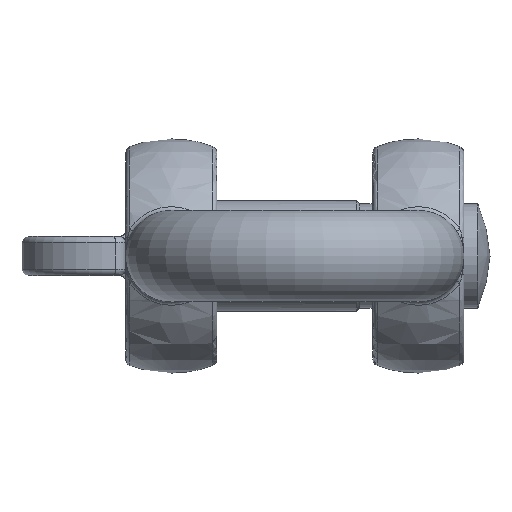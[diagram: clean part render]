
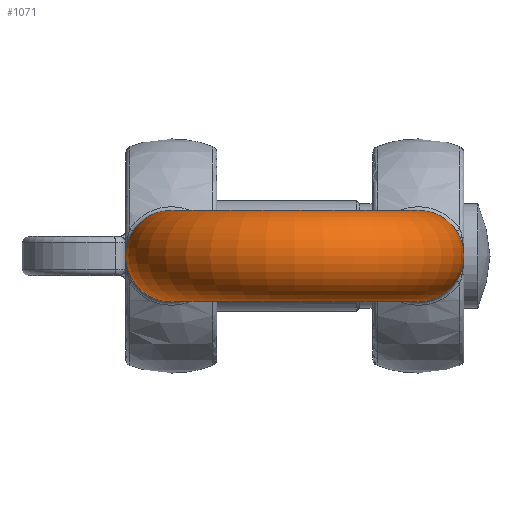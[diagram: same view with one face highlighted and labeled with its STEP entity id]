
A CAD part, front view. The second image highlights one B-rep face of the part: STEP entity #1071.
In plain terms, the highlighted toroidal (fillet/blend) face has major radius 19 mm and minor radius 7 mm.
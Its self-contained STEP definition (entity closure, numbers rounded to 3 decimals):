
#59=TOROIDAL_SURFACE('',#1228,19.,7.);
#175=FACE_OUTER_BOUND('',#248,.T.);
#248=EDGE_LOOP('',(#874,#875,#876,#877,#878,#879));
#382=CIRCLE('',#1226,7.);
#383=CIRCLE('',#1227,7.);
#384=CIRCLE('',#1229,12.);
#385=CIRCLE('',#1230,7.);
#386=CIRCLE('',#1231,7.);
#479=VERTEX_POINT('',#2481);
#480=VERTEX_POINT('',#2483);
#481=VERTEX_POINT('',#2487);
#482=VERTEX_POINT('',#2489);
#618=EDGE_CURVE('',#479,#480,#382,.T.);
#619=EDGE_CURVE('',#480,#479,#383,.T.);
#620=EDGE_CURVE('',#480,#481,#384,.T.);
#621=EDGE_CURVE('',#481,#482,#385,.T.);
#622=EDGE_CURVE('',#482,#481,#386,.T.);
#874=ORIENTED_EDGE('',*,*,#619,.F.);
#875=ORIENTED_EDGE('',*,*,#620,.T.);
#876=ORIENTED_EDGE('',*,*,#621,.T.);
#877=ORIENTED_EDGE('',*,*,#622,.T.);
#878=ORIENTED_EDGE('',*,*,#620,.F.);
#879=ORIENTED_EDGE('',*,*,#618,.F.);
#1071=ADVANCED_FACE('',(#175),#59,.T.);
#1226=AXIS2_PLACEMENT_3D('',#2484,#1443,#1444);
#1227=AXIS2_PLACEMENT_3D('',#2485,#1445,#1446);
#1228=AXIS2_PLACEMENT_3D('',#2486,#1447,#1448);
#1229=AXIS2_PLACEMENT_3D('',#2488,#1449,#1450);
#1230=AXIS2_PLACEMENT_3D('',#2490,#1451,#1452);
#1231=AXIS2_PLACEMENT_3D('',#2491,#1453,#1454);
#1443=DIRECTION('center_axis',(0.,1.,0.));
#1444=DIRECTION('ref_axis',(1.,0.,0.));
#1445=DIRECTION('center_axis',(0.,1.,0.));
#1446=DIRECTION('ref_axis',(1.,0.,0.));
#1447=DIRECTION('center_axis',(0.,0.,-1.));
#1448=DIRECTION('ref_axis',(-1.,0.,0.));
#1449=DIRECTION('center_axis',(0.,0.,1.));
#1450=DIRECTION('ref_axis',(-1.,0.,0.));
#1451=DIRECTION('center_axis',(0.,-1.,0.));
#1452=DIRECTION('ref_axis',(-1.,0.,0.));
#1453=DIRECTION('center_axis',(0.,-1.,0.));
#1454=DIRECTION('ref_axis',(-1.,0.,0.));
#2481=CARTESIAN_POINT('',(-26.,26.,0.));
#2483=CARTESIAN_POINT('',(-12.,26.,0.));
#2484=CARTESIAN_POINT('Origin',(-19.,26.,0.));
#2485=CARTESIAN_POINT('Origin',(-19.,26.,0.));
#2486=CARTESIAN_POINT('Origin',(0.,26.,0.));
#2487=CARTESIAN_POINT('',(12.,26.,0.));
#2488=CARTESIAN_POINT('Origin',(0.,26.,0.));
#2489=CARTESIAN_POINT('',(26.,26.,0.));
#2490=CARTESIAN_POINT('Origin',(19.,26.,0.));
#2491=CARTESIAN_POINT('Origin',(19.,26.,0.));
